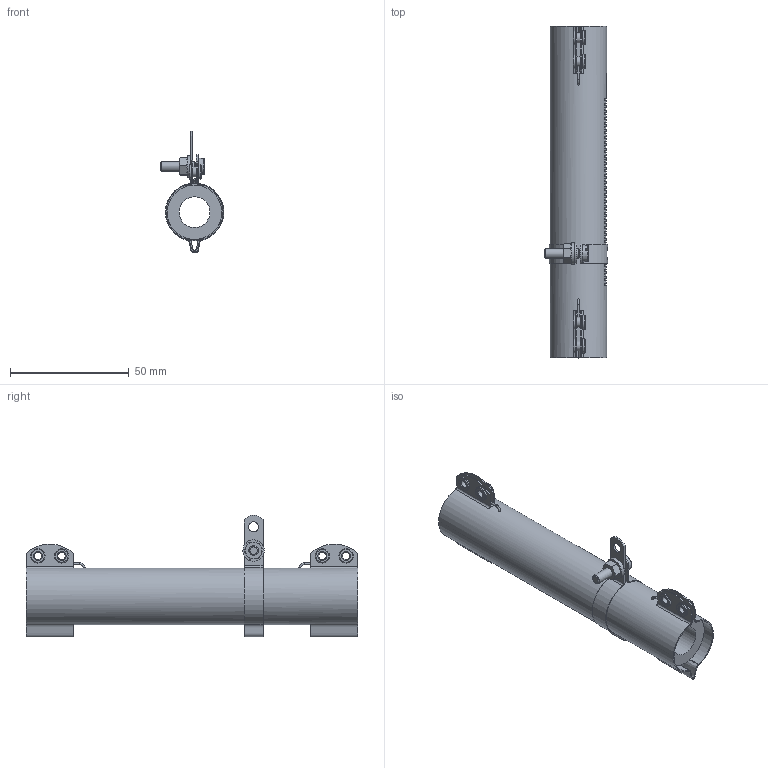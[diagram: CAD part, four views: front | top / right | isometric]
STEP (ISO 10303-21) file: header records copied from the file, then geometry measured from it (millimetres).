
FILE_DESCRIPTION(/* description */ (''),/* implementation_level */ '2;1');
FILE_NAME(/* name */ 'C:\_Vault\Dati\CATALOGO\RC-RS\RC-RS R TF\RSR TF 90.stp',/* time_stamp */ '2014-03-21T09:09:47+01:00',/* author */ ('stefano'),/* organization */ (''),/* preprocessor_version */ 'ST-DEVELOPER v15.2',/* originating_system */ 'Autodesk Inventor 2014',/* authorisation */ '');
FILE_SCHEMA (('AUTOMOTIVE_DESIGN { 1 0 10303 214 3 1 1 }'));
Length unit declared in the file: millimetre
Products named in the file (2): RSR TF 90; RC-RS R TF
Bounding box: 26.75 x 140 x 51.26 mm (x, y, z)
Volume: 43174.2 mm3; surface area: 21787.9 mm2
Topology: 1 solids, 5 shells, 411 faces, 1113 edges, 728 vertices
Faces by surface type: plane 259, cylinder 104, torus 20, cone 16, bspline 12
Full cylindrical faces by diameter (mm): 0.4 x2, 0.8 x4, 3.2 x4, 3.571 x1, 4 x2, 4.2 x11, 4.3 x1, 6 x8, 9 x1, 13 x1, 24 x1
Entity records: 13737 total; most frequent: CARTESIAN_POINT 3004, DIRECTION 2178, ORIENTED_EDGE 2076, EDGE_CURVE 1038, AXIS2_PLACEMENT_3D 814, VERTEX_POINT 712, LINE 550, VECTOR 550
